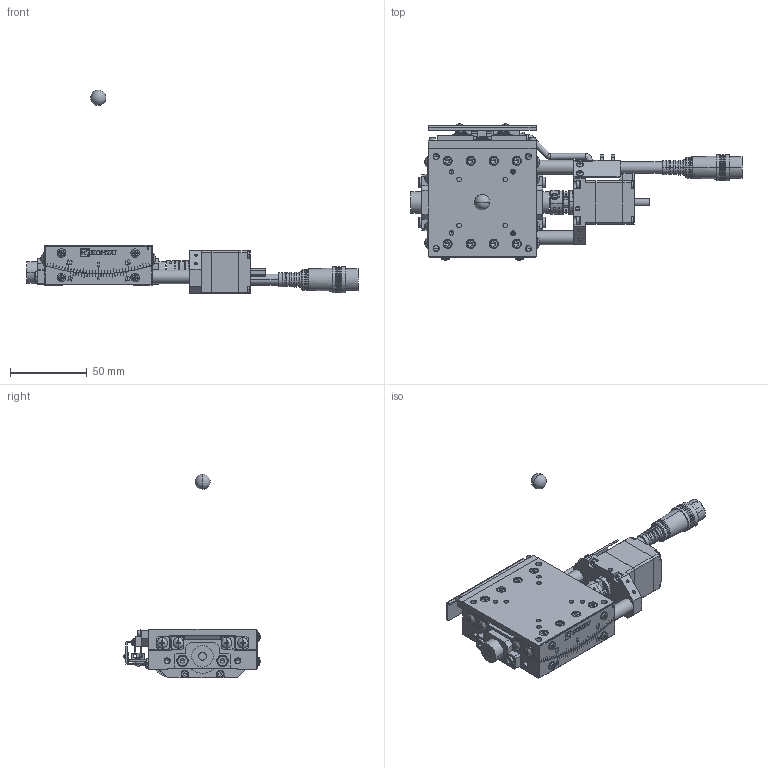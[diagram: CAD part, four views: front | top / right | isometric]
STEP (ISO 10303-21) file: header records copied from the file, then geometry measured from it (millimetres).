
FILE_DESCRIPTION( (''), '2;1');
FILE_NAME ('SA07A-R2M01.stp','2022-01-24T14:30:34',(''),(''),'spGate 17.5.5','','');
FILE_SCHEMA (('AUTOMOTIVE_DESIGN'));
Length unit declared in the file: millimetre
Products named in the file (8): Assembly; SA07A-R2M01-prt0; SA07A-R2M01-prt1; SA07A-R2M01-prt2; SA07A-R2M01-prt3; SA07A-R2M01-prt4; SA07A-R2M01-prt5; SA07A-R2M01-prt6
Assembly tree (7 placements, depth 2):
  Assembly
    SA07A-R2M01-prt0
    SA07A-R2M01-prt1
    SA07A-R2M01-prt2
    SA07A-R2M01-prt3
    SA07A-R2M01-prt4
    SA07A-R2M01-prt5
    SA07A-R2M01-prt6
Bounding box: 216 x 88.66 x 132.5 mm (x, y, z)
Volume: 182541.8 mm3; surface area: 64434.5 mm2
Topology: 7 solids, 7 shells, 2932 faces, 7517 edges, 4730 vertices
Faces by surface type: plane 1833, cylinder 691, bspline 360, sphere 48
Entity records: 150664 total; most frequent: CARTESIAN_POINT 21551, ORIENTED_EDGE 14852, DIRECTION 13943, COLOUR_RGB 10363, PRESENTATION_STYLE_ASSIGNMENT 10363, STYLED_ITEM 10363, EDGE_CURVE 7426, DRAUGHTING_PRE_DEFINED_CURVE_FONT 7426
